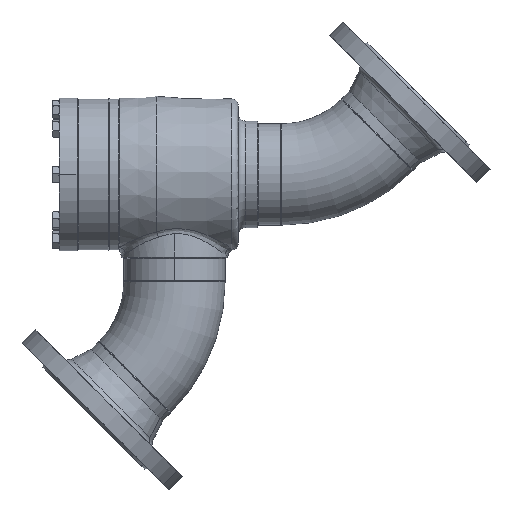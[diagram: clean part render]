
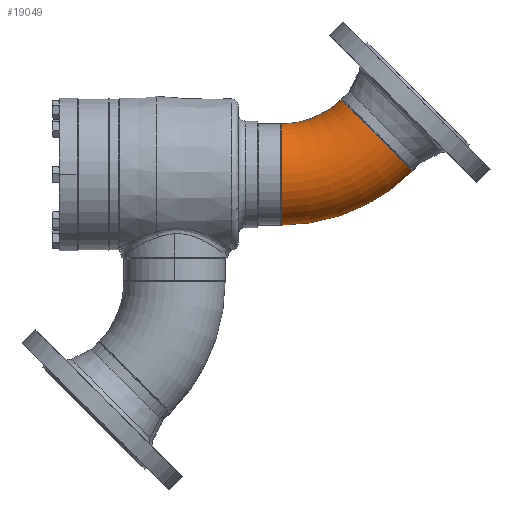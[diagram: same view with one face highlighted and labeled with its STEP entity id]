
A CAD part, left-side view. The second image highlights one B-rep face of the part: STEP entity #19049.
In plain terms, the highlighted toroidal (fillet/blend) face has major radius 152 mm and minor radius 57.15 mm.
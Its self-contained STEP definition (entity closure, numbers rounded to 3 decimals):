
#17405 = CARTESIAN_POINT ( 'NONE',  ( 147.891, -4.109, 0. ) ) ;
#17806 = ORIENTED_EDGE ( 'NONE', *, *, #6906, .F. ) ;
#18321 = ORIENTED_EDGE ( 'NONE', *, *, #10370, .F. ) ;
#18817 = EDGE_LOOP ( 'NONE', ( #18321, #17806, #6426, #5930 ) ) ;
#19049 = ADVANCED_FACE ( 'NONE', ( #6605 ), #6606, .T. ) ;
#3939 = CIRCLE ( 'NONE', #3940, 94.85 ) ;
#3940 = AXIS2_PLACEMENT_3D ( 'NONE', #3941, #3942, #3943 ) ;
#3941 = CARTESIAN_POINT ( 'NONE',  ( 0., -152., 0. ) ) ;
#3942 = DIRECTION ( 'NONE',  ( 0., 0., 1. ) ) ;
#3943 = DIRECTION ( 'NONE',  ( 1., 0., 0. ) ) ;
#5567 = EDGE_CURVE ( 'NONE', #9083, #10155, #8201, .T. ) ;
#5930 = ORIENTED_EDGE ( 'NONE', *, *, #5567, .T. ) ;
#6426 = ORIENTED_EDGE ( 'NONE', *, *, #8221, .T. ) ;
#6605 = FACE_OUTER_BOUND ( 'NONE', #18817, .T. ) ;
#6606 = TOROIDAL_SURFACE ( 'NONE', #6607, 152., 57.15 ) ;
#6607 = AXIS2_PLACEMENT_3D ( 'NONE', #6608, #6609, #6610 ) ;
#6608 = CARTESIAN_POINT ( 'NONE',  ( 0., -152., 0. ) ) ;
#6609 = DIRECTION ( 'NONE',  ( 0., 0., 1. ) ) ;
#6610 = DIRECTION ( 'NONE',  ( 1., 0., 0. ) ) ;
#6906 = EDGE_CURVE ( 'NONE', #11629, #12042, #9758, .T. ) ;
#7411 = CARTESIAN_POINT ( 'NONE',  ( 0., -57.15, 0. ) ) ;
#8201 = CIRCLE ( 'NONE', #8202, 57.15 ) ;
#8202 = AXIS2_PLACEMENT_3D ( 'NONE', #8204, #8205, #8206 ) ;
#8204 = CARTESIAN_POINT ( 'NONE',  ( 0., 0., 0. ) ) ;
#8205 = DIRECTION ( 'NONE',  ( 1., 0., 0. ) ) ;
#8206 = DIRECTION ( 'NONE',  ( 0., 0., -1. ) ) ;
#8221 = EDGE_CURVE ( 'NONE', #11629, #9083, #3939, .T. ) ;
#9083 = VERTEX_POINT ( 'NONE', #7411 ) ;
#9758 = CIRCLE ( 'NONE', #9759, 57.15 ) ;
#9759 = AXIS2_PLACEMENT_3D ( 'NONE', #9760, #9761, #9762 ) ;
#9760 = CARTESIAN_POINT ( 'NONE',  ( 107.48, -44.52, 0. ) ) ;
#9761 = DIRECTION ( 'NONE',  ( 0.707, -0.707, 0. ) ) ;
#9762 = DIRECTION ( 'NONE',  ( 0., 0., -1. ) ) ;
#10155 = VERTEX_POINT ( 'NONE', #12159 ) ;
#10370 = EDGE_CURVE ( 'NONE', #12042, #10155, #12454, .T. ) ;
#11629 = VERTEX_POINT ( 'NONE', #15317 ) ;
#12042 = VERTEX_POINT ( 'NONE', #17405 ) ;
#12159 = CARTESIAN_POINT ( 'NONE',  ( 0., 57.15, 0. ) ) ;
#12454 = CIRCLE ( 'NONE', #12455, 209.15 ) ;
#12455 = AXIS2_PLACEMENT_3D ( 'NONE', #12456, #12457, #12458 ) ;
#12456 = CARTESIAN_POINT ( 'NONE',  ( 0., -152., 0. ) ) ;
#12457 = DIRECTION ( 'NONE',  ( 0., 0., 1. ) ) ;
#12458 = DIRECTION ( 'NONE',  ( 1., 0., 0. ) ) ;
#15317 = CARTESIAN_POINT ( 'NONE',  ( 67.069, -84.931, 0. ) ) ;
